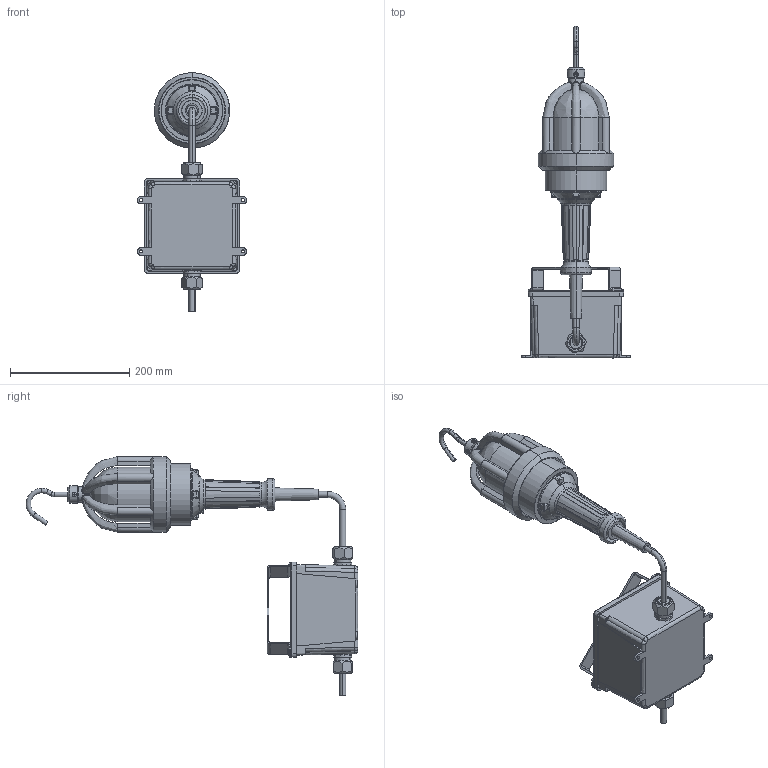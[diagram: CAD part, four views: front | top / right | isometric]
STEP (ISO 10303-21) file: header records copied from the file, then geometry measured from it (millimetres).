
FILE_DESCRIPTION (( 'STEP AP214' ), '1' );
FILE_NAME ('EPL-120V-DW with JBox.STEP', '2016-02-15T17:43:43', ( '' ), ( '' ), 'SwSTEP 2.0', 'SolidWorks 2016', '' );
FILE_SCHEMA (( 'AUTOMOTIVE_DESIGN' ));
Length unit declared in the file: inch
Products named in the file (7): binding head screw_ai_CR-BHMS 0.164-32x0.25x0.25-N; dustins lid bracket; Non EXP JBox; EPL-120V-DW pigtail; .75in CGB; EPL-120V-DW Part_Cord; EPL-120V-DW with JBox
Assembly tree (10 placements, depth 2):
  EPL-120V-DW with JBox
    EPL-120V-DW Part_Cord
    .75in CGB  x2
    EPL-120V-DW pigtail
    Non EXP JBox
    dustins lid bracket
    binding head screw_ai_CR-BHMS 0.164-32x0.25x0.25-N  x4
Bounding box: 183.59 x 557.5 x 400.99 mm (x, y, z)
Volume: 4319416.4 mm3; surface area: 324163.4 mm2
Topology: 11 solids, 11 shells, 620 faces, 1481 edges, 909 vertices
Faces by surface type: plane 269, cylinder 177, cone 65, bspline 51, sphere 34, torus 24
Entity records: 22701 total; most frequent: CARTESIAN_POINT 10746, ORIENTED_EDGE 2448, DIRECTION 2370, EDGE_CURVE 1224, AXIS2_PLACEMENT_3D 961, VERTEX_POINT 757, EDGE_LOOP 565, FACE_OUTER_BOUND 511
